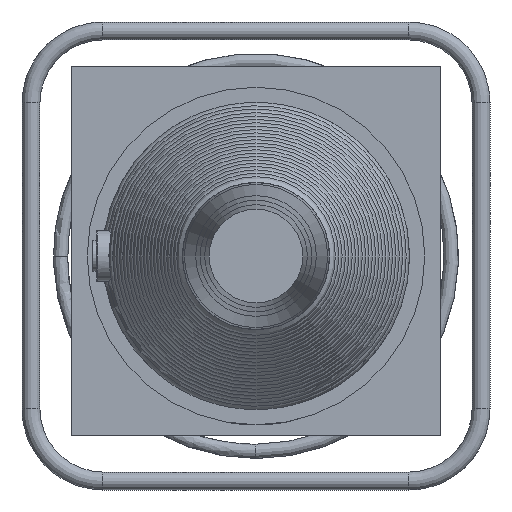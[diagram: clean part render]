
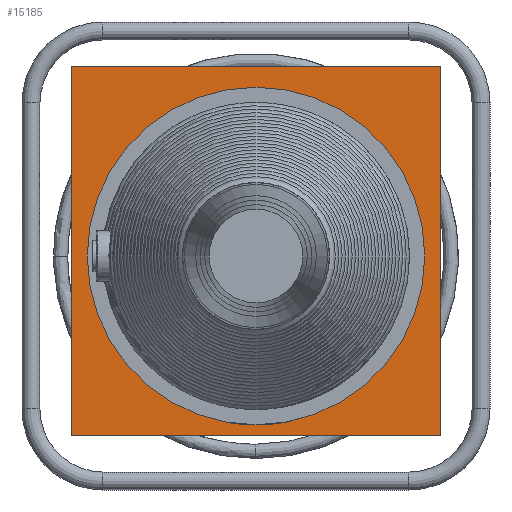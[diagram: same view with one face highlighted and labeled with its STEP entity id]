
A CAD part, left-side view. The second image highlights one B-rep face of the part: STEP entity #15185.
In plain terms, the highlighted planar face has unit normal (-1, 0, 0).
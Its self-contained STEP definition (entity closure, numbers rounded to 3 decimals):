
#1491=PLANE('',#16015);
#2389=LINE('',#39507,#3293);
#2393=LINE('',#39514,#3297);
#2396=LINE('',#39519,#3300);
#2399=LINE('',#39523,#3303);
#3293=VECTOR('',#18540,410.);
#3297=VECTOR('',#18546,410.);
#3300=VECTOR('',#18551,410.);
#3303=VECTOR('',#18556,410.);
#3548=FACE_BOUND('',#5464,.T.);
#4424=FACE_OUTER_BOUND('',#5463,.T.);
#5463=EDGE_LOOP('',(#13703,#13704,#13705,#13706));
#5464=EDGE_LOOP('',(#13707));
#5982=CIRCLE('',#15951,187.5);
#7451=VERTEX_POINT('',#35337);
#7479=VERTEX_POINT('',#39505);
#7480=VERTEX_POINT('',#39506);
#7482=VERTEX_POINT('',#39513);
#7483=VERTEX_POINT('',#39518);
#9553=EDGE_CURVE('',#7451,#7451,#5982,.T.);
#9583=EDGE_CURVE('',#7479,#7480,#2389,.T.);
#9587=EDGE_CURVE('',#7480,#7482,#2393,.T.);
#9590=EDGE_CURVE('',#7482,#7483,#2396,.T.);
#9593=EDGE_CURVE('',#7483,#7479,#2399,.T.);
#13703=ORIENTED_EDGE('',*,*,#9593,.T.);
#13704=ORIENTED_EDGE('',*,*,#9583,.T.);
#13705=ORIENTED_EDGE('',*,*,#9587,.T.);
#13706=ORIENTED_EDGE('',*,*,#9590,.T.);
#13707=ORIENTED_EDGE('',*,*,#9553,.T.);
#15185=ADVANCED_FACE('',(#4424,#3548),#1491,.F.);
#15951=AXIS2_PLACEMENT_3D('',#35338,#18412,#18413);
#16015=AXIS2_PLACEMENT_3D('',#39525,#18558,#18559);
#18412=DIRECTION('center_axis',(1.,0.,0.));
#18413=DIRECTION('ref_axis',(0.,1.,0.));
#18540=DIRECTION('',(0.,0.,-1.));
#18546=DIRECTION('',(0.,-1.,0.));
#18551=DIRECTION('',(0.,0.,1.));
#18556=DIRECTION('',(0.,1.,0.));
#18558=DIRECTION('center_axis',(1.,0.,0.));
#18559=DIRECTION('ref_axis',(0.,0.,1.));
#35337=CARTESIAN_POINT('',(-112.151,187.5,0.));
#35338=CARTESIAN_POINT('Origin',(-112.151,0.,
0.));
#39505=CARTESIAN_POINT('',(-112.151,205.,210.253));
#39506=CARTESIAN_POINT('',(-112.151,205.,-199.747));
#39507=CARTESIAN_POINT('',(-112.151,205.,210.253));
#39513=CARTESIAN_POINT('',(-112.151,-205.,-199.747));
#39514=CARTESIAN_POINT('',(-112.151,205.,-199.747));
#39518=CARTESIAN_POINT('',(-112.151,-205.,210.253));
#39519=CARTESIAN_POINT('',(-112.151,-205.,-199.747));
#39523=CARTESIAN_POINT('',(-112.151,-205.,210.253));
#39525=CARTESIAN_POINT('Origin',(-112.151,0.,
5.253));
